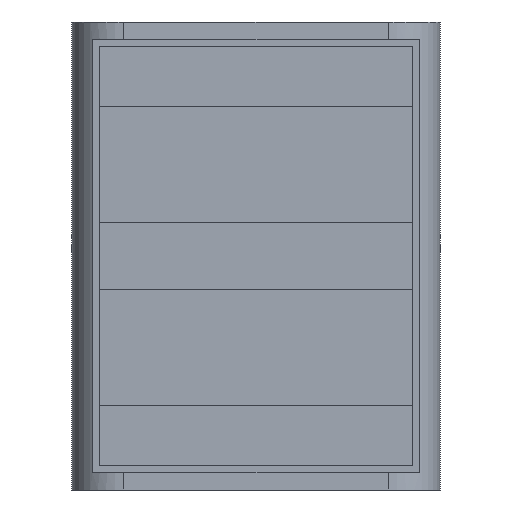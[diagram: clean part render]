
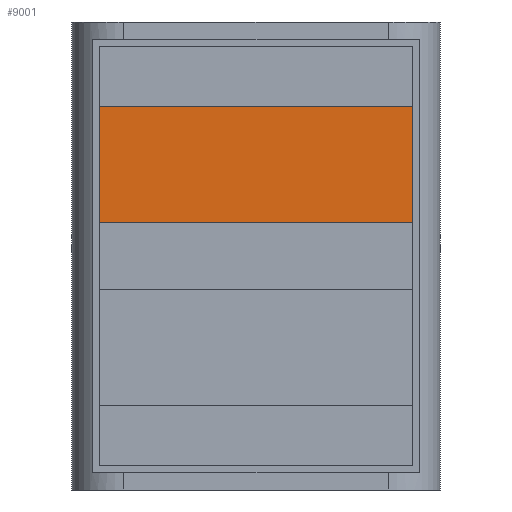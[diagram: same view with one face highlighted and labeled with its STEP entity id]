
A CAD part, front view. The second image highlights one B-rep face of the part: STEP entity #9001.
In plain terms, the highlighted planar face has unit normal (0, -1, 0).
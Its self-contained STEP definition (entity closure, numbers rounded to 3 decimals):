
#31 = LINE ( 'NONE', #5044, #3341 ) ;
#301 = CARTESIAN_POINT ( 'NONE',  ( -47.05, -17.2, 10. ) ) ;
#707 = CARTESIAN_POINT ( 'NONE',  ( 47.05, -17.2, 44.9 ) ) ;
#737 = DIRECTION ( 'NONE',  ( 0., 0., 1. ) ) ;
#1385 = FACE_OUTER_BOUND ( 'NONE', #4857, .T. ) ;
#1400 = VECTOR ( 'NONE', #737, 1000. ) ;
#1427 = LINE ( 'NONE', #707, #1400 ) ;
#1877 = PLANE ( 'NONE',  #4958 ) ;
#2099 = VERTEX_POINT ( 'NONE', #7109 ) ;
#2304 = VERTEX_POINT ( 'NONE', #7319 ) ;
#2581 = DIRECTION ( 'NONE',  ( 0., 0., -1. ) ) ;
#3223 = VERTEX_POINT ( 'NONE', #4780 ) ;
#3341 = VECTOR ( 'NONE', #7199, 1000. ) ;
#3449 = VERTEX_POINT ( 'NONE', #5268 ) ;
#4080 = EDGE_CURVE ( 'NONE', #3223, #2304, #5781, .T. ) ;
#4780 = CARTESIAN_POINT ( 'NONE',  ( -47.05, -17.2, 10. ) ) ;
#4857 = EDGE_LOOP ( 'NONE', ( #6505, #6552, #5821, #7804 ) ) ;
#4958 = AXIS2_PLACEMENT_3D ( 'NONE', #8993, #6813, #2581 ) ;
#5044 = CARTESIAN_POINT ( 'NONE',  ( -47.05, -17.2, 44.9 ) ) ;
#5219 = EDGE_CURVE ( 'NONE', #2304, #3449, #1427, .T. ) ;
#5239 = DIRECTION ( 'NONE',  ( 1., 0., 0. ) ) ;
#5268 = CARTESIAN_POINT ( 'NONE',  ( 47.05, -17.2, 44.9 ) ) ;
#5480 = VECTOR ( 'NONE', #5239, 1000. ) ;
#5652 = EDGE_CURVE ( 'NONE', #3449, #2099, #9062, .T. ) ;
#5781 = LINE ( 'NONE', #301, #5480 ) ;
#5821 = ORIENTED_EDGE ( 'NONE', *, *, #5219, .T. ) ;
#6505 = ORIENTED_EDGE ( 'NONE', *, *, #8742, .T. ) ;
#6552 = ORIENTED_EDGE ( 'NONE', *, *, #4080, .T. ) ;
#6813 = DIRECTION ( 'NONE',  ( 0., -1., 0. ) ) ;
#7109 = CARTESIAN_POINT ( 'NONE',  ( -47.05, -17.2, 44.9 ) ) ;
#7199 = DIRECTION ( 'NONE',  ( 0., 0., -1. ) ) ;
#7291 = CARTESIAN_POINT ( 'NONE',  ( -47.05, -17.2, 44.9 ) ) ;
#7319 = CARTESIAN_POINT ( 'NONE',  ( 47.05, -17.2, 10. ) ) ;
#7804 = ORIENTED_EDGE ( 'NONE', *, *, #5652, .T. ) ;
#8032 = DIRECTION ( 'NONE',  ( -1., 0., 0. ) ) ;
#8742 = EDGE_CURVE ( 'NONE', #2099, #3223, #31, .T. ) ;
#8993 = CARTESIAN_POINT ( 'NONE',  ( 0., -17.2, 0. ) ) ;
#9001 = ADVANCED_FACE ( 'NONE', ( #1385 ), #1877, .T. ) ;
#9062 = LINE ( 'NONE', #7291, #9202 ) ;
#9202 = VECTOR ( 'NONE', #8032, 1000. ) ;
